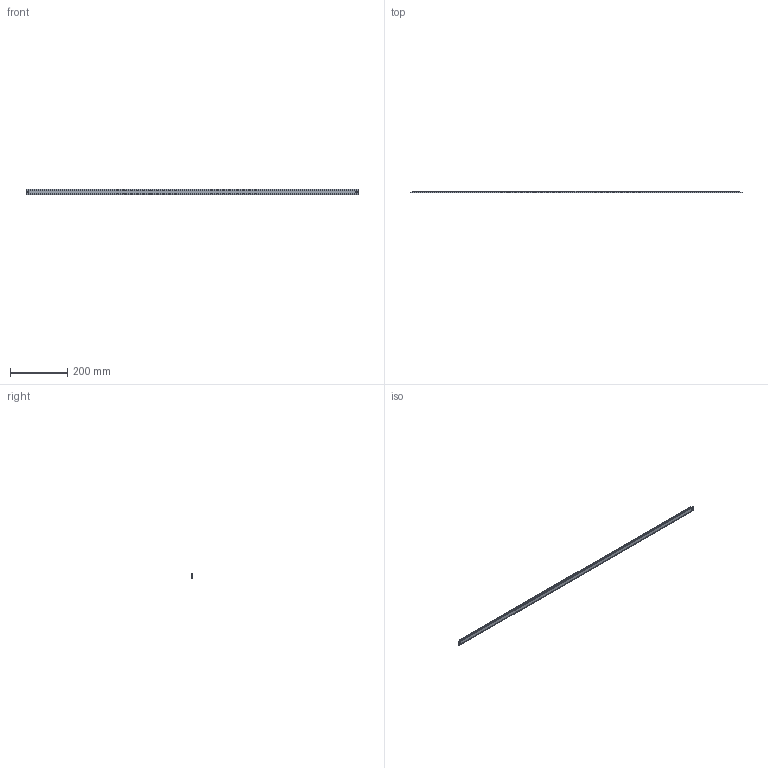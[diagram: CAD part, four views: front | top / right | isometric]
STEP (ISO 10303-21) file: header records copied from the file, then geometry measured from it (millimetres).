
FILE_DESCRIPTION (( 'STEP AP214' ), '1' );
FILE_NAME ('SAScale_exposed.ScaleLneght1160.STEP', '2026-03-10T09:13:50', ( '' ), ( '' ), 'SwSTEP 2.0', 'SolidWorks 2024', '' );
FILE_SCHEMA (( 'AUTOMOTIVE_DESIGN' ));
Length unit declared in the file: millimetre
Products named in the file (1): SAScale_exposed.ScaleLneght1160
Bounding box: 1160 x 6 x 18 mm (x, y, z)
Volume: 114700.1 mm3; surface area: 99411.3 mm2
Topology: 2 solids, 2 shells, 52 faces, 141 edges, 94 vertices
Faces by surface type: plane 37, cylinder 15
Entity records: 2247 total; most frequent: CARTESIAN_POINT 288, ORIENTED_EDGE 282, DIRECTION 277, EDGE_CURVE 141, VECTOR 111, LINE 111, VERTEX_POINT 94, AXIS2_PLACEMENT_3D 83
